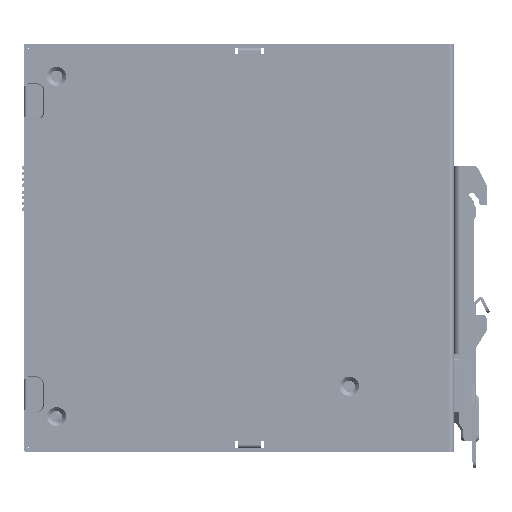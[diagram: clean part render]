
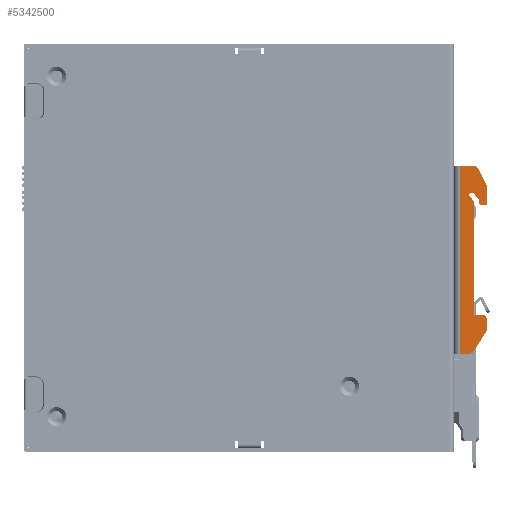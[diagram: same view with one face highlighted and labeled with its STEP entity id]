
A CAD part, front view. The second image highlights one B-rep face of the part: STEP entity #5342500.
In plain terms, the highlighted planar face has unit normal (0, -1, 0) as drawn and (-1, 0, 0) by its records, which use the part's own axes.
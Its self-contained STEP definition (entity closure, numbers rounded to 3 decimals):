
#5337850=CARTESIAN_POINT('',(1945.231,2561.925,
25.923));
#5337860=VERTEX_POINT('',#5337850);
#5337890=CARTESIAN_POINT('',(1945.231,2561.925,
25.923));
#5337900=DIRECTION('',(0.,0.,-1.));
#5337910=VECTOR('',#5337900,1.);
#5337920=LINE('',#5337890,#5337910);
#5337930=CARTESIAN_POINT('',(1945.231,2561.925,
21.55));
#5337940=VERTEX_POINT('',#5337930);
#5337950=EDGE_CURVE('',#5337860,#5337940,#5337920,.T.);
#5340380=CARTESIAN_POINT('',(1945.231,2516.324,
25.85));
#5340390=VERTEX_POINT('',#5340380);
#5340420=CARTESIAN_POINT('',(1945.231,2550.801,
25.85));
#5340430=DIRECTION('',(0.,-1.,0.));
#5340440=VECTOR('',#5340430,1.);
#5340450=LINE('',#5340420,#5340440);
#5340460=CARTESIAN_POINT('',(1945.231,2550.801,
25.85));
#5340470=VERTEX_POINT('',#5340460);
#5340480=EDGE_CURVE('',#5340470,#5340390,#5340450,.T.);
#5340640=CARTESIAN_POINT('',(1945.231,2550.801,
24.85));
#5340650=DIRECTION('',(-1.,0.,0.));
#5340660=DIRECTION('',(0.,0.,1.));
#5340670=AXIS2_PLACEMENT_3D('',#5340640,#5340650,#5340660);
#5340680=CIRCLE('',#5340670,1.);
#5340690=CARTESIAN_POINT('',(1945.231,2551.449,
25.611));
#5340700=VERTEX_POINT('',#5340690);
#5340710=EDGE_CURVE('',#5340470,#5340700,#5340680,.T.);
#5340840=CARTESIAN_POINT('',(1945.231,2557.325,
22.904));
#5340850=DIRECTION('',(-1.,0.,0.));
#5340860=DIRECTION('',(0.,0.,1.));
#5340870=AXIS2_PLACEMENT_3D('',#5340840,#5340850,#5340860);
#5340880=PLANE('',#5340870);
#5340890=ORIENTED_EDGE('',*,*,#5340710,.T.);
#5340900=ORIENTED_EDGE('',*,*,#5340480,.F.);
#5340910=CARTESIAN_POINT('',(1945.231,2516.324,
25.85));
#5340920=DIRECTION('',(0.,0.,1.));
#5340930=VECTOR('',#5340920,1.);
#5340940=LINE('',#5340910,#5340930);
#5340950=CARTESIAN_POINT('',(1945.231,2516.324,
28.35));
#5340960=VERTEX_POINT('',#5340950);
#5340970=EDGE_CURVE('',#5340390,#5340960,#5340940,.T.);
#5340980=ORIENTED_EDGE('',*,*,#5340970,.F.);
#5340990=CARTESIAN_POINT('',(1945.231,2514.824,
28.35));
#5341000=DIRECTION('',(-1.,0.,0.));
#5341010=DIRECTION('',(0.,0.,1.));
#5341020=AXIS2_PLACEMENT_3D('',#5340990,#5341000,#5341010);
#5341030=CIRCLE('',#5341020,1.5);
#5341040=CARTESIAN_POINT('',(1945.231,2514.824,
29.85));
#5341050=VERTEX_POINT('',#5341040);
#5341060=EDGE_CURVE('',#5341050,#5340960,#5341030,.T.);
#5341070=ORIENTED_EDGE('',*,*,#5341060,.T.);
#5341080=CARTESIAN_POINT('',(1945.231,2514.824,
29.85));
#5341090=DIRECTION('',(0.,-1.,0.));
#5341100=VECTOR('',#5341090,1.);
#5341110=LINE('',#5341080,#5341100);
#5341120=CARTESIAN_POINT('',(1945.231,2511.765,
29.85));
#5341130=VERTEX_POINT('',#5341120);
#5341140=EDGE_CURVE('',#5341050,#5341130,#5341110,.T.);
#5341150=ORIENTED_EDGE('',*,*,#5341140,.F.);
#5341160=CARTESIAN_POINT('',(1945.231,2511.765,
28.35));
#5341170=DIRECTION('',(-1.,0.,0.));
#5341180=DIRECTION('',(0.,-0.541,0.841));
#5341190=AXIS2_PLACEMENT_3D('',#5341160,#5341170,#5341180);
#5341200=CIRCLE('',#5341190,1.5);
#5341210=CARTESIAN_POINT('',(1945.231,2510.953,
29.612));
#5341220=VERTEX_POINT('',#5341210);
#5341230=EDGE_CURVE('',#5341220,#5341130,#5341200,.T.);
#5341240=ORIENTED_EDGE('',*,*,#5341230,.T.);
#5341250=CARTESIAN_POINT('',(1945.231,2505.014,
25.793));
#5341260=DIRECTION('',(0.,0.841,0.541));
#5341270=VECTOR('',#5341260,1.);
#5341280=LINE('',#5341250,#5341270);
#5341290=CARTESIAN_POINT('',(1945.231,2505.014,
25.793));
#5341300=VERTEX_POINT('',#5341290);
#5341310=EDGE_CURVE('',#5341300,#5341220,#5341280,.T.);
#5341320=ORIENTED_EDGE('',*,*,#5341310,.T.);
#5341330=CARTESIAN_POINT('',(1945.231,2505.825,
24.531));
#5341340=DIRECTION('',(-1.,0.,0.));
#5341350=DIRECTION('',(0.,-1.,0.));
#5341360=AXIS2_PLACEMENT_3D('',#5341330,#5341340,#5341350);
#5341370=CIRCLE('',#5341360,1.5);
#5341380=CARTESIAN_POINT('',(1945.231,2504.325,
24.531));
#5341390=VERTEX_POINT('',#5341380);
#5341400=EDGE_CURVE('',#5341390,#5341300,#5341370,.T.);
#5341410=ORIENTED_EDGE('',*,*,#5341400,.T.);
#5341420=CARTESIAN_POINT('',(1945.231,2504.325,
24.531));
#5341430=DIRECTION('',(0.,0.,-1.));
#5341440=VECTOR('',#5341430,1.);
#5341450=LINE('',#5341420,#5341440);
#5341460=CARTESIAN_POINT('',(1945.231,2504.325,
21.55));
#5341470=VERTEX_POINT('',#5341460);
#5341480=EDGE_CURVE('',#5341390,#5341470,#5341450,.T.);
#5341490=ORIENTED_EDGE('',*,*,#5341480,.F.);
#5341500=CARTESIAN_POINT('',(1945.231,2504.325,
21.55));
#5341510=DIRECTION('',(0.,1.,0.));
#5341520=VECTOR('',#5341510,1.);
#5341530=LINE('',#5341500,#5341520);
#5341540=EDGE_CURVE('',#5341470,#5337940,#5341530,.T.);
#5341550=ORIENTED_EDGE('',*,*,#5341540,.F.);
#5341560=ORIENTED_EDGE('',*,*,#5337950,.T.);
#5341570=CARTESIAN_POINT('',(1945.231,2560.425,
25.923));
#5341580=DIRECTION('',(-1.,0.,0.));
#5341590=DIRECTION('',(0.,0.447,0.894));
#5341600=AXIS2_PLACEMENT_3D('',#5341570,#5341580,#5341590);
#5341610=CIRCLE('',#5341600,1.5);
#5341620=CARTESIAN_POINT('',(1945.231,2561.096,
27.265));
#5341630=VERTEX_POINT('',#5341620);
#5341640=EDGE_CURVE('',#5341630,#5337860,#5341610,.T.);
#5341650=ORIENTED_EDGE('',*,*,#5341640,.T.);
#5341660=CARTESIAN_POINT('',(1945.231,2556.242,
29.692));
#5341670=DIRECTION('',(0.,0.894,-0.447));
#5341680=VECTOR('',#5341670,1.);
#5341690=LINE('',#5341660,#5341680);
#5341700=CARTESIAN_POINT('',(1945.231,2556.242,
29.692));
#5341710=VERTEX_POINT('',#5341700);
#5341720=EDGE_CURVE('',#5341710,#5341630,#5341690,.T.);
#5341730=ORIENTED_EDGE('',*,*,#5341720,.T.);
#5341740=CARTESIAN_POINT('',(1945.231,2555.571,
28.35));
#5341750=DIRECTION('',(-1.,0.,0.));
#5341760=DIRECTION('',(0.,0.,1.));
#5341770=AXIS2_PLACEMENT_3D('',#5341740,#5341750,#5341760);
#5341780=CIRCLE('',#5341770,1.5);
#5341790=CARTESIAN_POINT('',(1945.231,2555.571,
29.85));
#5341800=VERTEX_POINT('',#5341790);
#5341810=EDGE_CURVE('',#5341800,#5341710,#5341780,.T.);
#5341820=ORIENTED_EDGE('',*,*,#5341810,.T.);
#5341830=CARTESIAN_POINT('',(1945.231,2555.571,
29.85));
#5341840=DIRECTION('',(0.,-1.,0.));
#5341850=VECTOR('',#5341840,1.);
#5341860=LINE('',#5341830,#5341850);
#5341870=CARTESIAN_POINT('',(1945.231,2550.325,
29.85));
#5341880=VERTEX_POINT('',#5341870);
#5341890=EDGE_CURVE('',#5341800,#5341880,#5341860,.T.);
#5341900=ORIENTED_EDGE('',*,*,#5341890,.F.);
#5341910=CARTESIAN_POINT('',(1945.231,2550.325,
29.35));
#5341920=DIRECTION('',(-1.,0.,0.));
#5341930=DIRECTION('',(0.,-1.,0.));
#5341940=AXIS2_PLACEMENT_3D('',#5341910,#5341920,#5341930);
#5341950=CIRCLE('',#5341940,0.5);
#5341960=CARTESIAN_POINT('',(1945.231,2549.825,
29.35));
#5341970=VERTEX_POINT('',#5341960);
#5341980=EDGE_CURVE('',#5341970,#5341880,#5341950,.T.);
#5341990=ORIENTED_EDGE('',*,*,#5341980,.T.);
#5342000=CARTESIAN_POINT('',(1945.231,2549.825,
29.35));
#5342010=DIRECTION('',(0.,0.,-1.));
#5342020=VECTOR('',#5342010,1.);
#5342030=LINE('',#5342000,#5342020);
#5342040=CARTESIAN_POINT('',(1945.231,2549.825,
28.35));
#5342050=VERTEX_POINT('',#5342040);
#5342060=EDGE_CURVE('',#5341970,#5342050,#5342030,.T.);
#5342070=ORIENTED_EDGE('',*,*,#5342060,.F.);
#5342080=CARTESIAN_POINT('',(1945.231,2550.825,
28.35));
#5342090=DIRECTION('',(-1.,0.,0.));
#5342100=DIRECTION('',(0.,0.,-1.));
#5342110=AXIS2_PLACEMENT_3D('',#5342080,#5342090,#5342100);
#5342120=CIRCLE('',#5342110,1.);
#5342130=CARTESIAN_POINT('',(1945.231,2550.825,
27.35));
#5342140=VERTEX_POINT('',#5342130);
#5342150=EDGE_CURVE('',#5342140,#5342050,#5342120,.T.);
#5342160=ORIENTED_EDGE('',*,*,#5342150,.T.);
#5342170=CARTESIAN_POINT('',(1945.231,2550.825,
27.35));
#5342180=DIRECTION('',(0.,1.,0.));
#5342190=VECTOR('',#5342180,1.);
#5342200=LINE('',#5342170,#5342190);
#5342210=CARTESIAN_POINT('',(1945.231,2551.721,
27.35));
#5342220=VERTEX_POINT('',#5342210);
#5342230=EDGE_CURVE('',#5342140,#5342220,#5342200,.T.);
#5342240=ORIENTED_EDGE('',*,*,#5342230,.F.);
#5342250=CARTESIAN_POINT('',(1945.231,2553.483,
25.85));
#5342260=DIRECTION('',(0.,-0.761,0.648));
#5342270=VECTOR('',#5342260,1.);
#5342280=LINE('',#5342250,#5342270);
#5342290=CARTESIAN_POINT('',(1945.231,2553.483,
25.85));
#5342300=VERTEX_POINT('',#5342290);
#5342310=EDGE_CURVE('',#5342300,#5342220,#5342280,.T.);
#5342320=ORIENTED_EDGE('',*,*,#5342310,.T.);
#5342330=CARTESIAN_POINT('',(1945.231,2552.997,
25.279));
#5342340=DIRECTION('',(1.,0.,0.));
#5342350=DIRECTION('',(0.,-0.648,-0.761));
#5342360=AXIS2_PLACEMENT_3D('',#5342330,#5342340,#5342350);
#5342370=CIRCLE('',#5342360,0.75);
#5342380=CARTESIAN_POINT('',(1945.231,2552.511,
24.708));
#5342390=VERTEX_POINT('',#5342380);
#5342400=EDGE_CURVE('',#5342390,#5342300,#5342370,.T.);
#5342410=ORIENTED_EDGE('',*,*,#5342400,.T.);
#5342420=CARTESIAN_POINT('',(1945.231,2551.449,
25.611));
#5342430=DIRECTION('',(0.,0.761,-0.648));
#5342440=VECTOR('',#5342430,1.);
#5342450=LINE('',#5342420,#5342440);
#5342460=EDGE_CURVE('',#5340700,#5342390,#5342450,.T.);
#5342470=ORIENTED_EDGE('',*,*,#5342460,.T.);
#5342480=EDGE_LOOP('',(#5342470,#5342410,#5342320,#5342240,#5342160,
#5342070,#5341990,#5341900,#5341820,#5341730,#5341650,#5341560,#5341550,
#5341490,#5341410,#5341320,#5341240,#5341150,#5341070,#5340980,#5340900,
#5340890));
#5342490=FACE_OUTER_BOUND('',#5342480,.T.);
#5342500=ADVANCED_FACE('',(#5342490),#5340880,.T.);
